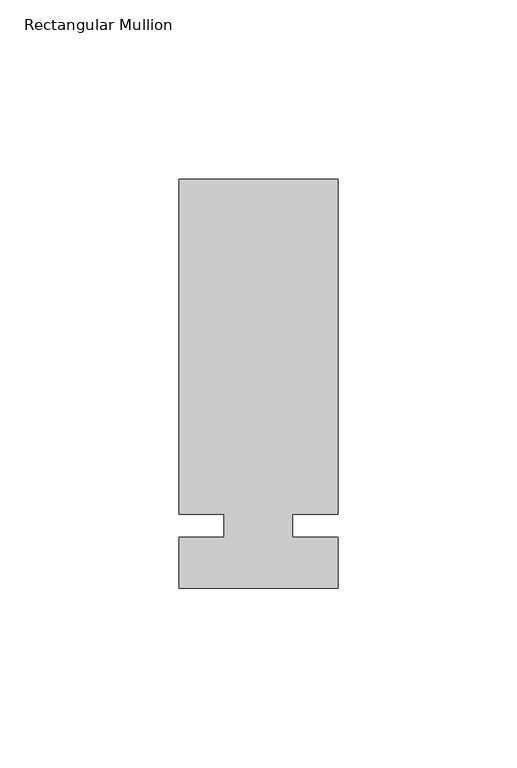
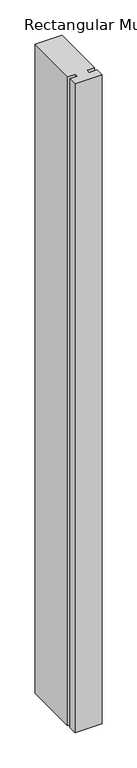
"""IFC4 building model written with IfcOpenShell, lengths in millimetres: member geometry, Rectangular Mullion : Kawneer-TRIFAB_VG_450_BACK_SB_Horizontal."""

from ifc_helpers import new_model, si_unit, frame, origin, place, context, project, spatial, polyline, outline, extrude, source, transform, mapped, element, save


def rectangular_mullion_0bcf50c1(model_context):
    return source(origin(), model_context, "Body", "SweptSolid", [
        extrude(outline(polyline([(26.5594027, -17.4625), (-17.8905973, -17.4625), (-17.8905973, -3.2050658), (-5.1905973, -3.2050658), (-5.1905973, 3.1449342), (-17.8905973, 3.1449342), (-17.8905973, 96.8375), (26.5594027, 96.8375), (26.5594027, 3.1449342), (13.8576322, 3.1449342), (13.8576322, -3.2050658), (26.5594027, -3.2050658), (26.5594027, -17.4625)])), frame((0.0, 0.0, -1129.0551312), z_axis=(0.0, 0.0, 1.0), x_axis=(1.0, 0.0, 0.0)), (0.0, 0.0, 1.0), 1129.0551312),
    ])


if __name__ == "__main__":
    model = new_model("IFC4")
    model_context = context("Model", 3, world=origin())
    ifc_project = project(units=[si_unit("LENGTHUNIT", "METRE", prefix="MILLI")], contexts=[model_context])
    site = spatial("IfcSite", under=ifc_project)
    building = spatial("IfcBuilding", under=site)
    placement = place(None, origin())
    rectangular_mullion_shape = rectangular_mullion_0bcf50c1(model_context)
    element("IfcMember", 1, ObjectType="Rectangular Mullion : Kawneer-TRIFAB_VG_450_BACK_SB_Horizontal", at=placement, inside=building, context=model_context, shape_type="MappedRepresentation", body=[
        mapped(rectangular_mullion_shape, transform((0.0, 0.0, 0.0), x_axis=(1.0, 0.0, 0.0), y_axis=(0.0, 1.0, 0.0), z_axis=(0.0, 0.0, 1.0))),
    ])
    save(model, "model.ifc")
